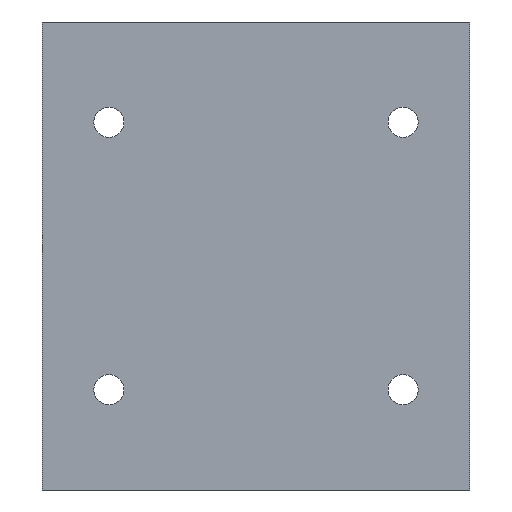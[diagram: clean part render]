
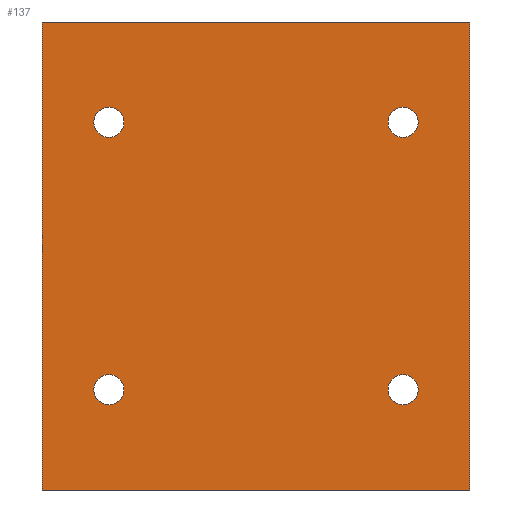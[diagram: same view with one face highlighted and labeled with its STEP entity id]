
A CAD part, front view. The second image highlights one B-rep face of the part: STEP entity #137.
In plain terms, the highlighted planar face has unit normal (0, -1, 0).
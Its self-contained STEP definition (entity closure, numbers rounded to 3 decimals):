
#21 = EDGE_CURVE('',#22,#24,#26,.T.);
#22 = VERTEX_POINT('',#23);
#23 = CARTESIAN_POINT('',(-32.,0.,90.));
#24 = VERTEX_POINT('',#25);
#25 = CARTESIAN_POINT('',(-32.,0.,160.));
#26 = SURFACE_CURVE('',#27,(#31,#43),.PCURVE_S1.);
#27 = LINE('',#28,#29);
#28 = CARTESIAN_POINT('',(-32.,0.,90.));
#29 = VECTOR('',#30,1.);
#30 = DIRECTION('',(0.,0.,1.));
#31 = PCURVE('',#32,#37);
#32 = PLANE('',#33);
#33 = AXIS2_PLACEMENT_3D('',#34,#35,#36);
#34 = CARTESIAN_POINT('',(-32.,0.,90.));
#35 = DIRECTION('',(1.,0.,0.));
#36 = DIRECTION('',(0.,0.,1.));
#37 = DEFINITIONAL_REPRESENTATION('',(#38),#42);
#38 = LINE('',#39,#40);
#39 = CARTESIAN_POINT('',(0.,0.));
#40 = VECTOR('',#41,1.);
#41 = DIRECTION('',(1.,0.));
#42 = ( GEOMETRIC_REPRESENTATION_CONTEXT(2) 
PARAMETRIC_REPRESENTATION_CONTEXT() REPRESENTATION_CONTEXT('2D SPACE',''
  ) );
#43 = PCURVE('',#44,#49);
#44 = PLANE('',#45);
#45 = AXIS2_PLACEMENT_3D('',#46,#47,#48);
#46 = CARTESIAN_POINT('',(-32.,0.,90.));
#47 = DIRECTION('',(0.,1.,0.));
#48 = DIRECTION('',(0.,0.,1.));
#49 = DEFINITIONAL_REPRESENTATION('',(#50),#54);
#50 = LINE('',#51,#52);
#51 = CARTESIAN_POINT('',(0.,0.));
#52 = VECTOR('',#53,1.);
#53 = DIRECTION('',(1.,0.));
#54 = ( GEOMETRIC_REPRESENTATION_CONTEXT(2) 
PARAMETRIC_REPRESENTATION_CONTEXT() REPRESENTATION_CONTEXT('2D SPACE',''
  ) );
#72 = PLANE('',#73);
#73 = AXIS2_PLACEMENT_3D('',#74,#75,#76);
#74 = CARTESIAN_POINT('',(-32.,0.,90.));
#75 = DIRECTION('',(0.,0.,1.));
#76 = DIRECTION('',(1.,0.,0.));
#126 = PLANE('',#127);
#127 = AXIS2_PLACEMENT_3D('',#128,#129,#130);
#128 = CARTESIAN_POINT('',(-32.,0.,160.));
#129 = DIRECTION('',(0.,0.,1.));
#130 = DIRECTION('',(1.,0.,0.));
#137 = ADVANCED_FACE('',(#138,#213,#244,#275,#306),#44,.F.);
#138 = FACE_BOUND('',#139,.F.);
#139 = EDGE_LOOP('',(#140,#163,#164,#187));
#140 = ORIENTED_EDGE('',*,*,#141,.F.);
#141 = EDGE_CURVE('',#22,#142,#144,.T.);
#142 = VERTEX_POINT('',#143);
#143 = CARTESIAN_POINT('',(32.,0.,90.));
#144 = SURFACE_CURVE('',#145,(#149,#156),.PCURVE_S1.);
#145 = LINE('',#146,#147);
#146 = CARTESIAN_POINT('',(-32.,0.,90.));
#147 = VECTOR('',#148,1.);
#148 = DIRECTION('',(1.,0.,0.));
#149 = PCURVE('',#44,#150);
#150 = DEFINITIONAL_REPRESENTATION('',(#151),#155);
#151 = LINE('',#152,#153);
#152 = CARTESIAN_POINT('',(0.,0.));
#153 = VECTOR('',#154,1.);
#154 = DIRECTION('',(0.,1.));
#155 = ( GEOMETRIC_REPRESENTATION_CONTEXT(2) 
PARAMETRIC_REPRESENTATION_CONTEXT() REPRESENTATION_CONTEXT('2D SPACE',''
  ) );
#156 = PCURVE('',#72,#157);
#157 = DEFINITIONAL_REPRESENTATION('',(#158),#162);
#158 = LINE('',#159,#160);
#159 = CARTESIAN_POINT('',(0.,0.));
#160 = VECTOR('',#161,1.);
#161 = DIRECTION('',(1.,0.));
#162 = ( GEOMETRIC_REPRESENTATION_CONTEXT(2) 
PARAMETRIC_REPRESENTATION_CONTEXT() REPRESENTATION_CONTEXT('2D SPACE',''
  ) );
#163 = ORIENTED_EDGE('',*,*,#21,.T.);
#164 = ORIENTED_EDGE('',*,*,#165,.T.);
#165 = EDGE_CURVE('',#24,#166,#168,.T.);
#166 = VERTEX_POINT('',#167);
#167 = CARTESIAN_POINT('',(32.,0.,160.));
#168 = SURFACE_CURVE('',#169,(#173,#180),.PCURVE_S1.);
#169 = LINE('',#170,#171);
#170 = CARTESIAN_POINT('',(-32.,0.,160.));
#171 = VECTOR('',#172,1.);
#172 = DIRECTION('',(1.,0.,0.));
#173 = PCURVE('',#44,#174);
#174 = DEFINITIONAL_REPRESENTATION('',(#175),#179);
#175 = LINE('',#176,#177);
#176 = CARTESIAN_POINT('',(70.,0.));
#177 = VECTOR('',#178,1.);
#178 = DIRECTION('',(0.,1.));
#179 = ( GEOMETRIC_REPRESENTATION_CONTEXT(2) 
PARAMETRIC_REPRESENTATION_CONTEXT() REPRESENTATION_CONTEXT('2D SPACE',''
  ) );
#180 = PCURVE('',#126,#181);
#181 = DEFINITIONAL_REPRESENTATION('',(#182),#186);
#182 = LINE('',#183,#184);
#183 = CARTESIAN_POINT('',(0.,0.));
#184 = VECTOR('',#185,1.);
#185 = DIRECTION('',(1.,0.));
#186 = ( GEOMETRIC_REPRESENTATION_CONTEXT(2) 
PARAMETRIC_REPRESENTATION_CONTEXT() REPRESENTATION_CONTEXT('2D SPACE',''
  ) );
#187 = ORIENTED_EDGE('',*,*,#188,.F.);
#188 = EDGE_CURVE('',#142,#166,#189,.T.);
#189 = SURFACE_CURVE('',#190,(#194,#201),.PCURVE_S1.);
#190 = LINE('',#191,#192);
#191 = CARTESIAN_POINT('',(32.,0.,90.));
#192 = VECTOR('',#193,1.);
#193 = DIRECTION('',(0.,0.,1.));
#194 = PCURVE('',#44,#195);
#195 = DEFINITIONAL_REPRESENTATION('',(#196),#200);
#196 = LINE('',#197,#198);
#197 = CARTESIAN_POINT('',(0.,64.));
#198 = VECTOR('',#199,1.);
#199 = DIRECTION('',(1.,0.));
#200 = ( GEOMETRIC_REPRESENTATION_CONTEXT(2) 
PARAMETRIC_REPRESENTATION_CONTEXT() REPRESENTATION_CONTEXT('2D SPACE',''
  ) );
#201 = PCURVE('',#202,#207);
#202 = PLANE('',#203);
#203 = AXIS2_PLACEMENT_3D('',#204,#205,#206);
#204 = CARTESIAN_POINT('',(32.,0.,90.));
#205 = DIRECTION('',(1.,0.,0.));
#206 = DIRECTION('',(0.,0.,1.));
#207 = DEFINITIONAL_REPRESENTATION('',(#208),#212);
#208 = LINE('',#209,#210);
#209 = CARTESIAN_POINT('',(0.,0.));
#210 = VECTOR('',#211,1.);
#211 = DIRECTION('',(1.,0.));
#212 = ( GEOMETRIC_REPRESENTATION_CONTEXT(2) 
PARAMETRIC_REPRESENTATION_CONTEXT() REPRESENTATION_CONTEXT('2D SPACE',''
  ) );
#213 = FACE_BOUND('',#214,.F.);
#214 = EDGE_LOOP('',(#215));
#215 = ORIENTED_EDGE('',*,*,#216,.F.);
#216 = EDGE_CURVE('',#217,#217,#219,.T.);
#217 = VERTEX_POINT('',#218);
#218 = CARTESIAN_POINT('',(-22.,0.,107.25));
#219 = SURFACE_CURVE('',#220,(#225,#232),.PCURVE_S1.);
#220 = CIRCLE('',#221,2.25);
#221 = AXIS2_PLACEMENT_3D('',#222,#223,#224);
#222 = CARTESIAN_POINT('',(-22.,0.,105.));
#223 = DIRECTION('',(0.,1.,0.));
#224 = DIRECTION('',(0.,-0.,1.));
#225 = PCURVE('',#44,#226);
#226 = DEFINITIONAL_REPRESENTATION('',(#227),#231);
#227 = CIRCLE('',#228,2.25);
#228 = AXIS2_PLACEMENT_2D('',#229,#230);
#229 = CARTESIAN_POINT('',(15.,10.));
#230 = DIRECTION('',(1.,0.));
#231 = ( GEOMETRIC_REPRESENTATION_CONTEXT(2) 
PARAMETRIC_REPRESENTATION_CONTEXT() REPRESENTATION_CONTEXT('2D SPACE',''
  ) );
#232 = PCURVE('',#233,#238);
#233 = CYLINDRICAL_SURFACE('',#234,2.25);
#234 = AXIS2_PLACEMENT_3D('',#235,#236,#237);
#235 = CARTESIAN_POINT('',(-22.,-1.,105.));
#236 = DIRECTION('',(0.,1.,0.));
#237 = DIRECTION('',(0.,-0.,1.));
#238 = DEFINITIONAL_REPRESENTATION('',(#239),#243);
#239 = LINE('',#240,#241);
#240 = CARTESIAN_POINT('',(0.,1.));
#241 = VECTOR('',#242,1.);
#242 = DIRECTION('',(1.,0.));
#243 = ( GEOMETRIC_REPRESENTATION_CONTEXT(2) 
PARAMETRIC_REPRESENTATION_CONTEXT() REPRESENTATION_CONTEXT('2D SPACE',''
  ) );
#244 = FACE_BOUND('',#245,.F.);
#245 = EDGE_LOOP('',(#246));
#246 = ORIENTED_EDGE('',*,*,#247,.F.);
#247 = EDGE_CURVE('',#248,#248,#250,.T.);
#248 = VERTEX_POINT('',#249);
#249 = CARTESIAN_POINT('',(-22.,0.,147.25));
#250 = SURFACE_CURVE('',#251,(#256,#263),.PCURVE_S1.);
#251 = CIRCLE('',#252,2.25);
#252 = AXIS2_PLACEMENT_3D('',#253,#254,#255);
#253 = CARTESIAN_POINT('',(-22.,0.,145.));
#254 = DIRECTION('',(0.,1.,0.));
#255 = DIRECTION('',(0.,-0.,1.));
#256 = PCURVE('',#44,#257);
#257 = DEFINITIONAL_REPRESENTATION('',(#258),#262);
#258 = CIRCLE('',#259,2.25);
#259 = AXIS2_PLACEMENT_2D('',#260,#261);
#260 = CARTESIAN_POINT('',(55.,10.));
#261 = DIRECTION('',(1.,0.));
#262 = ( GEOMETRIC_REPRESENTATION_CONTEXT(2) 
PARAMETRIC_REPRESENTATION_CONTEXT() REPRESENTATION_CONTEXT('2D SPACE',''
  ) );
#263 = PCURVE('',#264,#269);
#264 = CYLINDRICAL_SURFACE('',#265,2.25);
#265 = AXIS2_PLACEMENT_3D('',#266,#267,#268);
#266 = CARTESIAN_POINT('',(-22.,-1.,145.));
#267 = DIRECTION('',(0.,1.,0.));
#268 = DIRECTION('',(0.,-0.,1.));
#269 = DEFINITIONAL_REPRESENTATION('',(#270),#274);
#270 = LINE('',#271,#272);
#271 = CARTESIAN_POINT('',(0.,1.));
#272 = VECTOR('',#273,1.);
#273 = DIRECTION('',(1.,0.));
#274 = ( GEOMETRIC_REPRESENTATION_CONTEXT(2) 
PARAMETRIC_REPRESENTATION_CONTEXT() REPRESENTATION_CONTEXT('2D SPACE',''
  ) );
#275 = FACE_BOUND('',#276,.F.);
#276 = EDGE_LOOP('',(#277));
#277 = ORIENTED_EDGE('',*,*,#278,.F.);
#278 = EDGE_CURVE('',#279,#279,#281,.T.);
#279 = VERTEX_POINT('',#280);
#280 = CARTESIAN_POINT('',(22.,0.,107.25));
#281 = SURFACE_CURVE('',#282,(#287,#294),.PCURVE_S1.);
#282 = CIRCLE('',#283,2.25);
#283 = AXIS2_PLACEMENT_3D('',#284,#285,#286);
#284 = CARTESIAN_POINT('',(22.,0.,105.));
#285 = DIRECTION('',(0.,1.,0.));
#286 = DIRECTION('',(0.,-0.,1.));
#287 = PCURVE('',#44,#288);
#288 = DEFINITIONAL_REPRESENTATION('',(#289),#293);
#289 = CIRCLE('',#290,2.25);
#290 = AXIS2_PLACEMENT_2D('',#291,#292);
#291 = CARTESIAN_POINT('',(15.,54.));
#292 = DIRECTION('',(1.,0.));
#293 = ( GEOMETRIC_REPRESENTATION_CONTEXT(2) 
PARAMETRIC_REPRESENTATION_CONTEXT() REPRESENTATION_CONTEXT('2D SPACE',''
  ) );
#294 = PCURVE('',#295,#300);
#295 = CYLINDRICAL_SURFACE('',#296,2.25);
#296 = AXIS2_PLACEMENT_3D('',#297,#298,#299);
#297 = CARTESIAN_POINT('',(22.,-1.,105.));
#298 = DIRECTION('',(0.,1.,0.));
#299 = DIRECTION('',(0.,-0.,1.));
#300 = DEFINITIONAL_REPRESENTATION('',(#301),#305);
#301 = LINE('',#302,#303);
#302 = CARTESIAN_POINT('',(0.,1.));
#303 = VECTOR('',#304,1.);
#304 = DIRECTION('',(1.,0.));
#305 = ( GEOMETRIC_REPRESENTATION_CONTEXT(2) 
PARAMETRIC_REPRESENTATION_CONTEXT() REPRESENTATION_CONTEXT('2D SPACE',''
  ) );
#306 = FACE_BOUND('',#307,.F.);
#307 = EDGE_LOOP('',(#308));
#308 = ORIENTED_EDGE('',*,*,#309,.F.);
#309 = EDGE_CURVE('',#310,#310,#312,.T.);
#310 = VERTEX_POINT('',#311);
#311 = CARTESIAN_POINT('',(22.,0.,147.25));
#312 = SURFACE_CURVE('',#313,(#318,#325),.PCURVE_S1.);
#313 = CIRCLE('',#314,2.25);
#314 = AXIS2_PLACEMENT_3D('',#315,#316,#317);
#315 = CARTESIAN_POINT('',(22.,0.,145.));
#316 = DIRECTION('',(0.,1.,0.));
#317 = DIRECTION('',(0.,-0.,1.));
#318 = PCURVE('',#44,#319);
#319 = DEFINITIONAL_REPRESENTATION('',(#320),#324);
#320 = CIRCLE('',#321,2.25);
#321 = AXIS2_PLACEMENT_2D('',#322,#323);
#322 = CARTESIAN_POINT('',(55.,54.));
#323 = DIRECTION('',(1.,0.));
#324 = ( GEOMETRIC_REPRESENTATION_CONTEXT(2) 
PARAMETRIC_REPRESENTATION_CONTEXT() REPRESENTATION_CONTEXT('2D SPACE',''
  ) );
#325 = PCURVE('',#326,#331);
#326 = CYLINDRICAL_SURFACE('',#327,2.25);
#327 = AXIS2_PLACEMENT_3D('',#328,#329,#330);
#328 = CARTESIAN_POINT('',(22.,-1.,145.));
#329 = DIRECTION('',(0.,1.,0.));
#330 = DIRECTION('',(0.,-0.,1.));
#331 = DEFINITIONAL_REPRESENTATION('',(#332),#336);
#332 = LINE('',#333,#334);
#333 = CARTESIAN_POINT('',(0.,1.));
#334 = VECTOR('',#335,1.);
#335 = DIRECTION('',(1.,0.));
#336 = ( GEOMETRIC_REPRESENTATION_CONTEXT(2) 
PARAMETRIC_REPRESENTATION_CONTEXT() REPRESENTATION_CONTEXT('2D SPACE',''
  ) );
